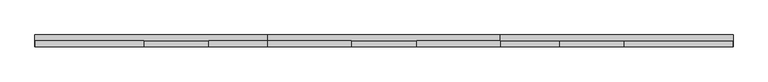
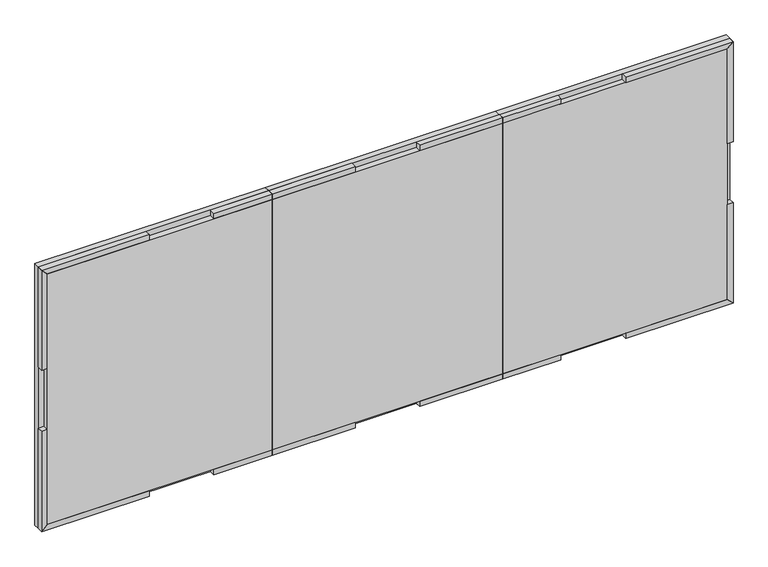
"""IFC4 building model written with IfcOpenShell, lengths in millimetres: proxy geometry, FOUNDATION^TABLE 7_POWER DRAWERS-TOPS SOLID."""

from ifc_helpers import new_model, si_unit, frame, origin, place, context, project, spatial, polyline, outline, extrude, source, transform, mapped, element, save


def generic_models_61f2ea61(model_context):
    return source(origin(), model_context, "Body", "SweptSolid", [
        extrude(outline(polyline([(2072.48125, 0.0), (2072.48125, -38.1), (1524.0, -38.1), (1524.0, 0.0), (2072.48125, 0.0)])), frame((0.0, 0.0, -38.1), z_axis=(0.0, 0.0, 1.0), x_axis=(1.0, 0.0, 0.0)), (0.0, 0.0, 1.0), 38.1),
        extrude(outline(polyline([(2499.51875, -38.1), (2499.51875, 0.0), (3048.0, 0.0), (3048.0, -38.1), (2499.51875, -38.1)])), frame((0.0, 0.0, -38.1), z_axis=(0.0, 0.0, 1.0), x_axis=(1.0, 0.0, 0.0)), (0.0, 0.0, 1.0), 38.1),
        extrude(outline(polyline([(38.1, 0.0), (1524.0, 0.0), (1524.0, -38.1), (38.1, -38.1), (38.1, 0.0)])), frame((0.0, 0.0, -1790.7), z_axis=(0.0, 0.0, 1.0), x_axis=(1.0, 0.0, 0.0)), (0.0, 0.0, 1.0), 1752.6),
        extrude(outline(polyline([(2499.51875, 0.0), (3048.0, 0.0), (3048.0, -38.1), (2499.51875, -38.1), (2499.51875, 0.0)])), frame((0.0, 0.0, -1828.8), z_axis=(0.0, 0.0, 1.0), x_axis=(1.0, 0.0, 0.0)), (0.0, 0.0, 1.0), 38.1),
        extrude(outline(polyline([(1524.0, 0.0), (2072.48125, 0.0), (2072.48125, -38.1), (1524.0, -38.1), (1524.0, 0.0)])), frame((0.0, 0.0, -1828.8), z_axis=(0.0, 0.0, 1.0), x_axis=(1.0, 0.0, 0.0)), (0.0, 0.0, 1.0), 38.1),
        extrude(outline(polyline([(1524.0, 0.0), (3048.0, 0.0), (3048.0, -38.1), (1524.0, -38.1), (1524.0, 0.0)])), frame((0.0, 0.0, -1790.7), z_axis=(0.0, 0.0, 1.0), x_axis=(1.0, 0.0, 0.0)), (0.0, 0.0, 1.0), 1752.6),
        extrude(outline(polyline([(-1127.91875, 38.1), (-1127.91875, 0.0), (-1828.8, 0.0), (-1790.7, 38.1), (-1127.91875, 38.1)])), frame((0.0, -38.1, 0.0), z_axis=(0.0, 1.0, 0.0), x_axis=(0.0, 0.0, 1.0)), (0.0, 0.0, 1.0), 38.1),
        extrude(outline(polyline([(-700.88125, 0.0), (-700.88125, 38.1), (-38.1, 38.1), (0.0, 0.0), (-700.88125, 0.0)])), frame((0.0, -38.1, 0.0), z_axis=(0.0, 1.0, 0.0), x_axis=(0.0, 0.0, 1.0)), (0.0, 0.0, 1.0), 38.1),
        extrude(outline(polyline([(4572.0, 0.0), (3048.0, 0.0), (3048.0, 38.1), (4572.0, 38.1), (4572.0, 0.0)])), frame((0.0, 0.0, -1828.8), z_axis=(0.0, 0.0, 1.0), x_axis=(1.0, 0.0, 0.0)), (0.0, 0.0, 1.0), 1828.8),
        extrude(outline(polyline([(-700.88125, 4533.9), (-700.88125, 4572.0), (0.0, 4572.0), (-38.1, 4533.9), (-700.88125, 4533.9)])), frame((0.0, -38.1, 0.0), z_axis=(0.0, 1.0, 0.0), x_axis=(0.0, 0.0, 1.0)), (0.0, 0.0, 1.0), 38.1),
        extrude(outline(polyline([(-1127.91875, 4572.0), (-1127.91875, 4533.9), (-1790.7, 4533.9), (-1828.8, 4572.0), (-1127.91875, 4572.0)])), frame((0.0, -38.1, 0.0), z_axis=(0.0, 1.0, 0.0), x_axis=(0.0, 0.0, 1.0)), (0.0, 0.0, 1.0), 38.1),
        extrude(outline(polyline([(1138.2375, 0.0), (1524.0, 0.0), (1524.0, -38.1), (1138.2375, -38.1), (1138.2375, 0.0)])), frame((0.0, 0.0, -1828.8), z_axis=(0.0, 0.0, 1.0), x_axis=(1.0, 0.0, 0.0)), (0.0, 0.0, 1.0), 38.1),
        extrude(outline(polyline([(-1828.8, 711.2), (-1790.7, 711.2), (-1790.7, 38.1), (-1828.8, 0.0), (-1828.8, 711.2)])), frame((0.0, -38.1, 0.0), z_axis=(0.0, 1.0, 0.0), x_axis=(0.0, 0.0, 1.0)), (0.0, 0.0, 1.0), 38.1),
        extrude(outline(polyline([(3048.0, 0.0), (1524.0, 0.0), (1524.0, 38.1), (3048.0, 38.1), (3048.0, 0.0)])), frame((0.0, 0.0, -1828.8), z_axis=(0.0, 0.0, 1.0), x_axis=(1.0, 0.0, 0.0)), (0.0, 0.0, 1.0), 1828.8),
        extrude(outline(polyline([(-38.1, 711.2), (0.0, 711.2), (0.0, 0.0), (-38.1, 38.1), (-38.1, 711.2)])), frame((0.0, -38.1, 0.0), z_axis=(0.0, 1.0, 0.0), x_axis=(0.0, 0.0, 1.0)), (0.0, 0.0, 1.0), 38.1),
        extrude(outline(polyline([(1138.2375, -38.1), (1138.2375, 0.0), (1524.0, 0.0), (1524.0, -38.1), (1138.2375, -38.1)])), frame((0.0, 0.0, -38.1), z_axis=(0.0, 0.0, 1.0), x_axis=(1.0, 0.0, 0.0)), (0.0, 0.0, 1.0), 38.1),
        extrude(outline(polyline([(1524.0, 0.0), (0.0, 0.0), (0.0, 38.1), (1524.0, 38.1), (1524.0, 0.0)])), frame((0.0, 0.0, -1828.8), z_axis=(0.0, 0.0, 1.0), x_axis=(1.0, 0.0, 0.0)), (0.0, 0.0, 1.0), 1828.8),
        extrude(outline(polyline([(3433.7625, 0.0), (3433.7625, -38.1), (3048.0, -38.1), (3048.0, 0.0), (3433.7625, 0.0)])), frame((0.0, 0.0, -38.1), z_axis=(0.0, 0.0, 1.0), x_axis=(1.0, 0.0, 0.0)), (0.0, 0.0, 1.0), 38.1),
        extrude(outline(polyline([(0.0, 3860.8), (-38.1, 3860.8), (-38.1, 4533.9), (0.0, 4572.0), (0.0, 3860.8)])), frame((0.0, -38.1, 0.0), z_axis=(0.0, 1.0, 0.0), x_axis=(0.0, 0.0, 1.0)), (0.0, 0.0, 1.0), 38.1),
        extrude(outline(polyline([(3048.0, 0.0), (4533.9, 0.0), (4533.9, -38.1), (3048.0, -38.1), (3048.0, 0.0)])), frame((0.0, 0.0, -1790.7), z_axis=(0.0, 0.0, 1.0), x_axis=(1.0, 0.0, 0.0)), (0.0, 0.0, 1.0), 1752.6),
        extrude(outline(polyline([(-1790.7, 3860.8), (-1828.8, 3860.8), (-1828.8, 4572.0), (-1790.7, 4533.9), (-1790.7, 3860.8)])), frame((0.0, -38.1, 0.0), z_axis=(0.0, 1.0, 0.0), x_axis=(0.0, 0.0, 1.0)), (0.0, 0.0, 1.0), 38.1),
        extrude(outline(polyline([(3048.0, 0.0), (3433.7625, 0.0), (3433.7625, -38.1), (3048.0, -38.1), (3048.0, 0.0)])), frame((0.0, 0.0, -1828.8), z_axis=(0.0, 0.0, 1.0), x_axis=(1.0, 0.0, 0.0)), (0.0, 0.0, 1.0), 38.1),
    ])


if __name__ == "__main__":
    model = new_model("IFC4")
    model_context = context("Model", 3, world=origin())
    ifc_project = project(units=[si_unit("LENGTHUNIT", "METRE", prefix="MILLI")], contexts=[model_context])
    site = spatial("IfcSite", under=ifc_project)
    building = spatial("IfcBuilding", under=site)
    placement = place(None, origin())
    generic_models_shape = generic_models_61f2ea61(model_context)
    element("IfcBuildingElementProxy", 1, Name="FOUNDATION^TABLE 7_POWER DRAWERS-TOPS SOLID", ObjectType="FOUNDATION^TABLE 7_POWER DRAWERS-TOPS SOLID", at=placement, inside=building, context=model_context, shape_type="MappedRepresentation", body=[
        mapped(generic_models_shape, transform((0.0, 0.0, 0.0), x_axis=(1.0, 0.0, 0.0), y_axis=(0.0, 1.0, 0.0), z_axis=(0.0, 0.0, 1.0))),
    ])
    save(model, "model.ifc")
